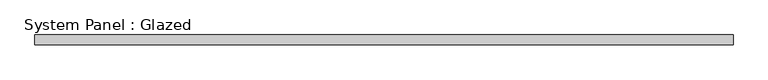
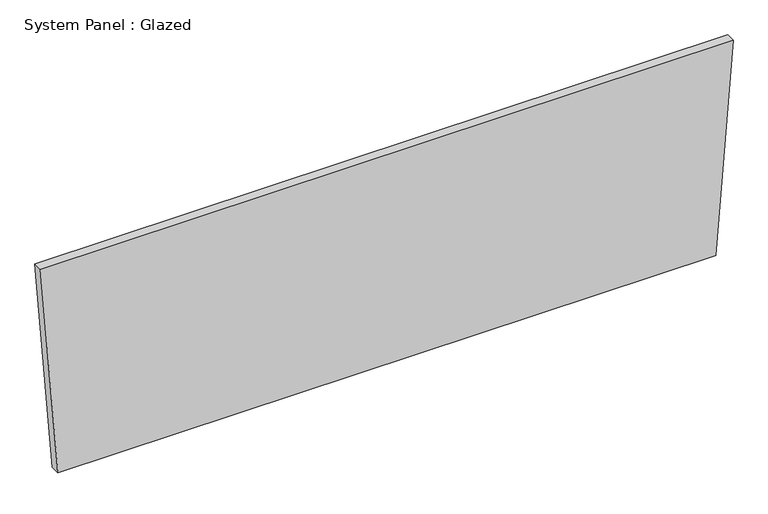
"""IFC4 building model written with IfcOpenShell, lengths in millimetres: plate geometry, System Panel : Glazed."""

from ifc_helpers import new_model, si_unit, frame, origin, place, context, project, spatial, polyline, outline, extrude, source, transform, mapped, element, save


def system_panel_glazed_d39a2736(model_context):
    return source(origin(), model_context, "Body", "SweptSolid", [
        extrude(outline(polyline([(0.0, -865.1008508), (0.0, 865.1008508), (582.3327757, 910.7845728), (582.3327757, -910.7845728), (0.0, -865.1008508)])), frame((0.0, 19.05, 0.0), z_axis=(0.0, 1.0, 0.0), x_axis=(0.0, 0.0, 1.0)), (0.0, 0.0, 1.0), 25.4),
    ])


if __name__ == "__main__":
    model = new_model("IFC4")
    model_context = context("Model", 3, world=origin())
    ifc_project = project(units=[si_unit("LENGTHUNIT", "METRE", prefix="MILLI")], contexts=[model_context])
    site = spatial("IfcSite", under=ifc_project)
    building = spatial("IfcBuilding", under=site)
    placement = place(None, origin())
    system_panel_glazed_shape = system_panel_glazed_d39a2736(model_context)
    element("IfcPlate", 1, ObjectType="System Panel : Glazed", at=placement, inside=building, context=model_context, shape_type="MappedRepresentation", body=[
        mapped(system_panel_glazed_shape, transform((0.0, 0.0, 0.0), x_axis=(1.0, 0.0, 0.0), y_axis=(0.0, 1.0, 0.0), z_axis=(0.0, 0.0, 1.0))),
    ])
    save(model, "model.ifc")
